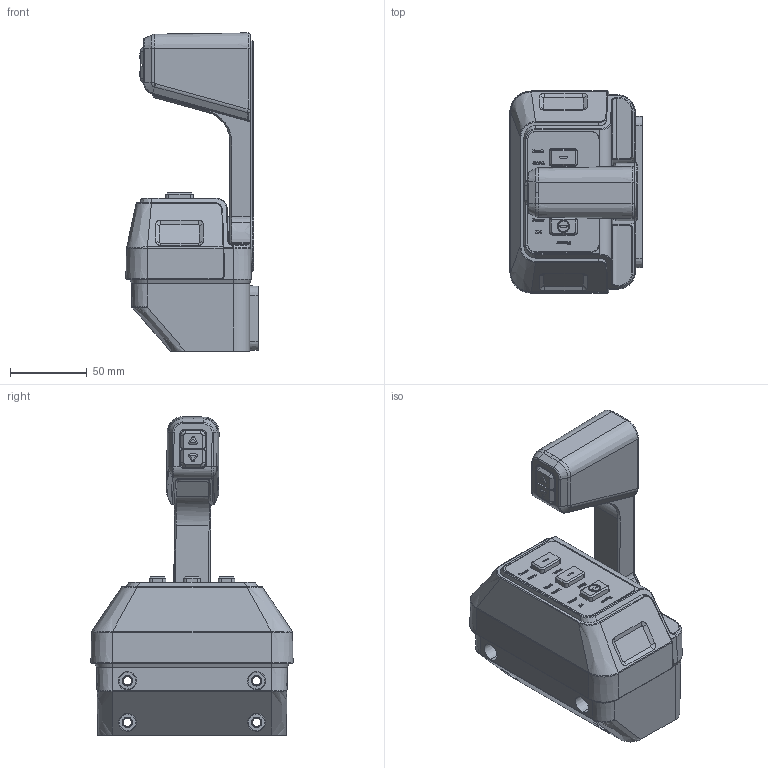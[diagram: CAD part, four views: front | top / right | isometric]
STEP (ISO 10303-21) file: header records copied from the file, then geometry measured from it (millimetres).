
FILE_DESCRIPTION (( 'STEP AP214' ), '1' );
FILE_NAME ('X-ﾓﾐﾏﾟﾔｶｲﾙｺﾐ｣ｨｲ獸ｰ｣ｩ.STEP', '2023-03-21T03:46:29', ( '1' ), ( 'ﾒﾝｶｯ' ), 'SwSTEP 2.0', 'SolidWorks 2016', '' );
FILE_SCHEMA (( 'AUTOMOTIVE_DESIGN' ));
Length unit declared in the file: millimetre
Products named in the file (1): X-衄盄堈紱碟ㄗ耜蚾ㄘ
Bounding box: 86.52 x 132.18 x 208 mm (x, y, z)
Surface area: 107301.7 mm2 (no closed solid volume)
Topology: 0 solids, 58 shells, 718 faces, 2917 edges, 2240 vertices
Faces by surface type: plane 321, bspline 138, cylinder 126, cone 116, torus 17
Entity records: 52857 total; most frequent: CARTESIAN_POINT 23598, ORIENTED_EDGE 4373, DIRECTION 3391, EDGE_CURVE 2911, VERTEX_POINT 2239, VECTOR 1581, LINE 1581, AXIS2_PLACEMENT_3D 905
